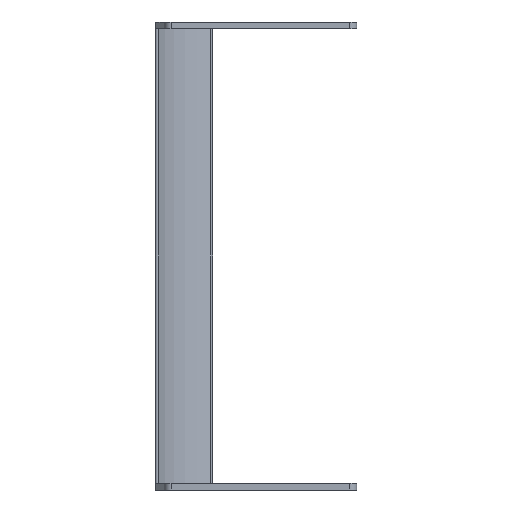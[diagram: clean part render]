
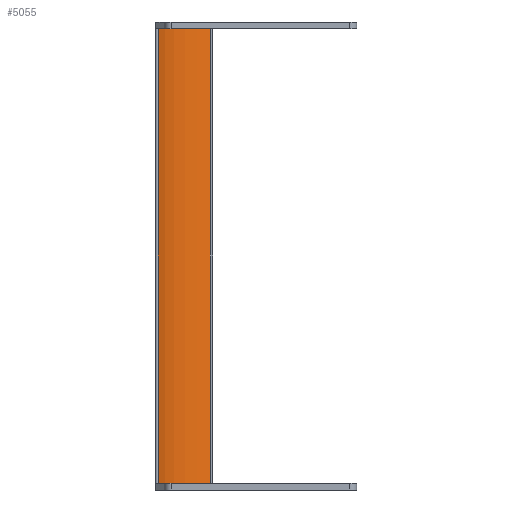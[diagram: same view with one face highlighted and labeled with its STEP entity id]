
A CAD part, left-side view. The second image highlights one B-rep face of the part: STEP entity #5055.
In plain terms, the highlighted cylindrical face has radius 40.64 mm (diameter 81.28 mm), a partial arc.
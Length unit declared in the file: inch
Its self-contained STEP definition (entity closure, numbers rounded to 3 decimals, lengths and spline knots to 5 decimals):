
#4762=CARTESIAN_POINT('',(-1.52,1.63,-4.118));
#4763=DIRECTION('',(0.,0.,-1.));
#4764=DIRECTION('',(0.914,-0.405,0.));
#4765=AXIS2_PLACEMENT_3D('',#4762,#4763,#4764);
#4809=CARTESIAN_POINT('',(-1.52,1.63,4.118));
#4810=DIRECTION('',(0.,0.,-1.));
#4811=DIRECTION('',(0.914,-0.405,0.));
#4812=AXIS2_PLACEMENT_3D('',#4809,#4810,#4811);
#4840=DIRECTION('',(0.,0.,1.));
#4841=VECTOR('',#4840,8.236);
#4842=CARTESIAN_POINT('',(-1.00032,0.11675,-4.118));
#4843=LINE('',#4842,#4841);
#4844=DIRECTION('',(0.,0.,1.));
#4845=VECTOR('',#4844,8.236);
#4846=CARTESIAN_POINT('',(-0.05742,0.98126,-4.118));
#4847=LINE('',#4846,#4845);
#4876=CARTESIAN_POINT('',(-0.05742,0.98126,-4.118));
#4877=VERTEX_POINT('',#4876);
#4878=CARTESIAN_POINT('',(-1.00032,0.11675,-4.118));
#4879=VERTEX_POINT('',#4878);
#4896=CARTESIAN_POINT('',(-0.05742,0.98126,4.118));
#4897=VERTEX_POINT('',#4896);
#4898=CARTESIAN_POINT('',(-1.00032,0.11675,4.118));
#4899=VERTEX_POINT('',#4898);
#5043=CARTESIAN_POINT('',(-1.52,1.63,-4.118));
#5044=DIRECTION('',(0.,0.,1.));
#5045=DIRECTION('',(1.,0.,0.));
#5046=AXIS2_PLACEMENT_3D('',#5043,#5044,#5045);
#5047=CYLINDRICAL_SURFACE('',#5046,1.6);
#5048=ORIENTED_EDGE('',*,*,#4913,.F.);
#5050=ORIENTED_EDGE('',*,*,#5049,.T.);
#5051=ORIENTED_EDGE('',*,*,#4969,.T.);
#5052=ORIENTED_EDGE('',*,*,#5036,.F.);
#5053=EDGE_LOOP('',(#5048,#5050,#5051,#5052));
#5054=FACE_OUTER_BOUND('',#5053,.F.);
#4766=CIRCLE('',#4765,1.6);
#4813=CIRCLE('',#4812,1.6);
#4913=EDGE_CURVE('',#4877,#4879,#4766,.T.);
#4969=EDGE_CURVE('',#4897,#4899,#4813,.T.);
#5036=EDGE_CURVE('',#4879,#4899,#4843,.T.);
#5049=EDGE_CURVE('',#4877,#4897,#4847,.T.);
#5055=ADVANCED_FACE('',(#5054),#5047,.F.);
